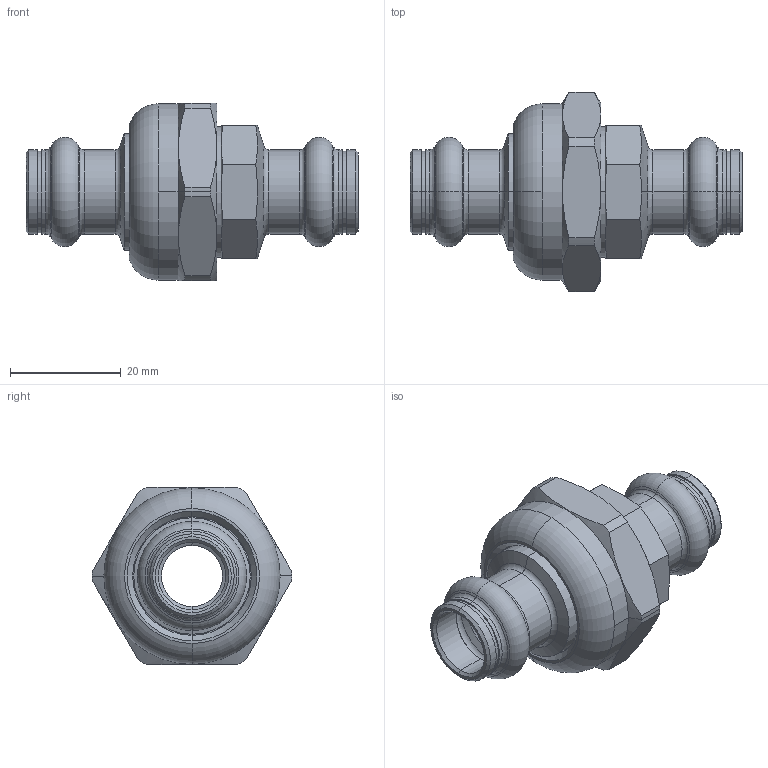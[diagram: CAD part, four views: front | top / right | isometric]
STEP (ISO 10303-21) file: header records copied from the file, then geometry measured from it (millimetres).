
FILE_DESCRIPTION (( 'STEP AP203' ), '1' );
FILE_NAME ('SP4330 Ø12.STEP', '2017-04-26T13:10:39', ( '' ), ( '' ), 'SwSTEP 2.0', 'SolidWorks 2016', '' );
FILE_SCHEMA (( 'CONFIG_CONTROL_DESIGN' ));
Length unit declared in the file: millimetre
Products named in the file (5): Ecrou à sertir_G3-4 JPG serti; SP4372_12; SP4330 ﾘ12; SP380 Cu_12; Joints plats_3-4 pouce
Assembly tree (4 placements, depth 2):
  SP4330 ﾘ12
    SP380 Cu_12
    Ecrou à sertir_G3-4 JPG serti
    SP4372_12
    Joints plats_3-4 pouce
Bounding box: 59.9 x 36 x 32 mm (x, y, z)
Volume: 15372.2 mm3; surface area: 12294.5 mm2
Topology: 4 solids, 4 shells, 182 faces, 389 edges, 223 vertices
Faces by surface type: cone 69, cylinder 59, plane 30, torus 24
Entity records: 5569 total; most frequent: CARTESIAN_POINT 1031, DIRECTION 944, ORIENTED_EDGE 778, AXIS2_PLACEMENT_3D 404, EDGE_CURVE 389, VERTEX_POINT 223, CIRCLE 215, EDGE_LOOP 198
